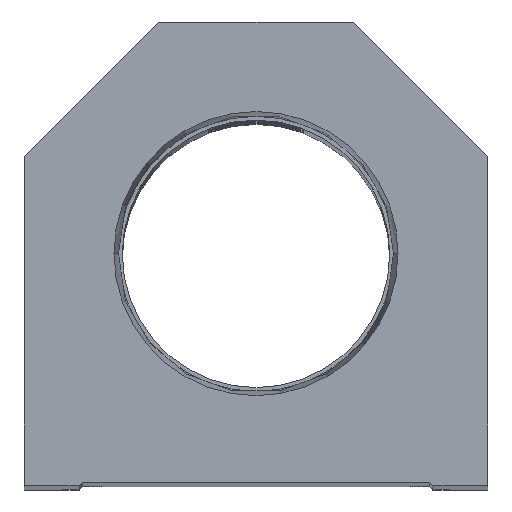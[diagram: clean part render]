
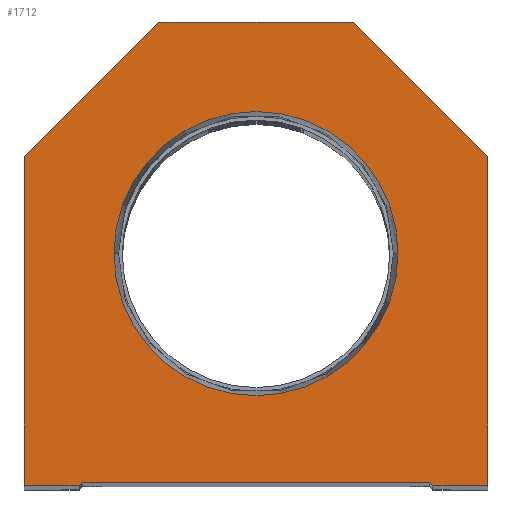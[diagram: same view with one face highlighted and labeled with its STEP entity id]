
A CAD part, top view. The second image highlights one B-rep face of the part: STEP entity #1712.
In plain terms, the highlighted planar face has unit normal (0, 0, 1).
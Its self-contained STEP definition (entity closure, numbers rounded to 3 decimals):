
#46 = CARTESIAN_POINT ( 'NONE',  ( 23.374, 38.1, 0. ) ) ;
#354 = AXIS2_PLACEMENT_3D ( 'NONE', #4495, #11588, #6454 ) ;
#473 = VECTOR ( 'NONE', #11195, 1000. ) ;
#550 = EDGE_CURVE ( 'NONE', #11220, #10486, #13526, .T. ) ;
#679 = LINE ( 'NONE', #988, #2090 ) ;
#988 = CARTESIAN_POINT ( 'NONE',  ( -14.55, 14.55, 0. ) ) ;
#1183 = DIRECTION ( 'NONE',  ( -0.707, -0.707, 0. ) ) ;
#1212 = VERTEX_POINT ( 'NONE', #6011 ) ;
#1712 = ADVANCED_FACE ( 'NONE', ( #4876, #6626 ), #16768, .T. ) ;
#1917 = VECTOR ( 'NONE', #1183, 1000. ) ;
#2090 = VECTOR ( 'NONE', #20762, 1000. ) ;
#2194 = LINE ( 'NONE', #3581, #10768 ) ;
#2288 = DIRECTION ( 'NONE',  ( 0.707, -0.707, 0. ) ) ;
#2640 = ORIENTED_EDGE ( 'NONE', *, *, #10659, .T. ) ;
#3257 = DIRECTION ( 'NONE',  ( 0., 0., 1. ) ) ;
#3581 = CARTESIAN_POINT ( 'NONE',  ( 28.6, 0., 0. ) ) ;
#4246 = EDGE_CURVE ( 'NONE', #6207, #13645, #13300, .T. ) ;
#4346 = EDGE_CURVE ( 'NONE', #17891, #12793, #15478, .T. ) ;
#4472 = EDGE_CURVE ( 'NONE', #12793, #1212, #9036, .T. ) ;
#4495 = CARTESIAN_POINT ( 'NONE',  ( 0., 38.1, 0. ) ) ;
#4626 = EDGE_CURVE ( 'NONE', #13645, #12607, #7472, .T. ) ;
#4876 = FACE_BOUND ( 'NONE', #16125, .T. ) ;
#5129 = DIRECTION ( 'NONE',  ( -1., 0., 0. ) ) ;
#5752 = CARTESIAN_POINT ( 'NONE',  ( 38.1, 0., 0. ) ) ;
#6011 = CARTESIAN_POINT ( 'NONE',  ( 16., 76.2, 0. ) ) ;
#6207 = VERTEX_POINT ( 'NONE', #7722 ) ;
#6375 = DIRECTION ( 'NONE',  ( 1., 0., 0. ) ) ;
#6454 = DIRECTION ( 'NONE',  ( 1., 0., 0. ) ) ;
#6464 = DIRECTION ( 'NONE',  ( 1., 0., 0. ) ) ;
#6466 = ORIENTED_EDGE ( 'NONE', *, *, #4346, .T. ) ;
#6626 = FACE_OUTER_BOUND ( 'NONE', #9666, .T. ) ;
#6820 = ORIENTED_EDGE ( 'NONE', *, *, #20540, .T. ) ;
#6884 = VECTOR ( 'NONE', #2288, 1000. ) ;
#7057 = CARTESIAN_POINT ( 'NONE',  ( 14.55, 14.55, 0. ) ) ;
#7195 = DIRECTION ( 'NONE',  ( 0., 1., 0. ) ) ;
#7472 = LINE ( 'NONE', #7057, #6884 ) ;
#7722 = CARTESIAN_POINT ( 'NONE',  ( -28.6, 0.5, 0. ) ) ;
#8598 = DIRECTION ( 'NONE',  ( 1., 0., 0. ) ) ;
#8798 = ORIENTED_EDGE ( 'NONE', *, *, #550, .F. ) ;
#9036 = LINE ( 'NONE', #14035, #16268 ) ;
#9534 = CARTESIAN_POINT ( 'NONE',  ( -29.1, 0., 0. ) ) ;
#9625 = DIRECTION ( 'NONE',  ( 0., 0., 1. ) ) ;
#9666 = EDGE_LOOP ( 'NONE', ( #16926, #6820, #20628, #17051, #19724, #6466, #14823, #11731, #11134, #2640 ) ) ;
#9673 = EDGE_CURVE ( 'NONE', #1212, #10363, #20059, .T. ) ;
#10363 = VERTEX_POINT ( 'NONE', #14049 ) ;
#10443 = CARTESIAN_POINT ( 'NONE',  ( 38.1, 54.1, 0. ) ) ;
#10486 = VERTEX_POINT ( 'NONE', #46 ) ;
#10523 = VECTOR ( 'NONE', #5129, 1000. ) ;
#10597 = AXIS2_PLACEMENT_3D ( 'NONE', #14813, #3257, #8598 ) ;
#10659 = EDGE_CURVE ( 'NONE', #16760, #15792, #13460, .T. ) ;
#10768 = VECTOR ( 'NONE', #13285, 1000. ) ;
#11134 = ORIENTED_EDGE ( 'NONE', *, *, #13018, .T. ) ;
#11195 = DIRECTION ( 'NONE',  ( 0., -1., 0. ) ) ;
#11220 = VERTEX_POINT ( 'NONE', #17905 ) ;
#11512 = LINE ( 'NONE', #18167, #21092 ) ;
#11588 = DIRECTION ( 'NONE',  ( 0., 0., 1. ) ) ;
#11731 = ORIENTED_EDGE ( 'NONE', *, *, #9673, .T. ) ;
#11758 = VECTOR ( 'NONE', #7195, 1000. ) ;
#12253 = CARTESIAN_POINT ( 'NONE',  ( -38.1, 54.1, 0. ) ) ;
#12607 = VERTEX_POINT ( 'NONE', #18199 ) ;
#12793 = VERTEX_POINT ( 'NONE', #10443 ) ;
#12966 = VERTEX_POINT ( 'NONE', #9534 ) ;
#13018 = EDGE_CURVE ( 'NONE', #10363, #16760, #20956, .T. ) ;
#13285 = DIRECTION ( 'NONE',  ( 1., 0., 0. ) ) ;
#13300 = LINE ( 'NONE', #19933, #20414 ) ;
#13460 = LINE ( 'NONE', #20095, #473 ) ;
#13526 = CIRCLE ( 'NONE', #354, 23.374 ) ;
#13645 = VERTEX_POINT ( 'NONE', #20915 ) ;
#14035 = CARTESIAN_POINT ( 'NONE',  ( 38.1, 54.1, 0. ) ) ;
#14049 = CARTESIAN_POINT ( 'NONE',  ( -16., 76.2, 0. ) ) ;
#14469 = DIRECTION ( 'NONE',  ( -0.707, 0.707, 0. ) ) ;
#14813 = CARTESIAN_POINT ( 'NONE',  ( 0., 0., 0. ) ) ;
#14823 = ORIENTED_EDGE ( 'NONE', *, *, #4472, .T. ) ;
#15108 = EDGE_CURVE ( 'NONE', #15792, #12966, #11512, .T. ) ;
#15478 = LINE ( 'NONE', #18857, #11758 ) ;
#15561 = AXIS2_PLACEMENT_3D ( 'NONE', #18913, #9625, #6464 ) ;
#15792 = VERTEX_POINT ( 'NONE', #17621 ) ;
#15863 = ORIENTED_EDGE ( 'NONE', *, *, #18627, .F. ) ;
#16125 = EDGE_LOOP ( 'NONE', ( #15863, #8798 ) ) ;
#16197 = CARTESIAN_POINT ( 'NONE',  ( -38.1, 54.1, 0. ) ) ;
#16268 = VECTOR ( 'NONE', #14469, 1000. ) ;
#16760 = VERTEX_POINT ( 'NONE', #12253 ) ;
#16768 = PLANE ( 'NONE',  #10597 ) ;
#16914 = CARTESIAN_POINT ( 'NONE',  ( 16., 76.2, 0. ) ) ;
#16926 = ORIENTED_EDGE ( 'NONE', *, *, #15108, .T. ) ;
#17051 = ORIENTED_EDGE ( 'NONE', *, *, #4626, .T. ) ;
#17621 = CARTESIAN_POINT ( 'NONE',  ( -38.1, 0., 0. ) ) ;
#17891 = VERTEX_POINT ( 'NONE', #5752 ) ;
#17905 = CARTESIAN_POINT ( 'NONE',  ( -23.374, 38.1, 0. ) ) ;
#18167 = CARTESIAN_POINT ( 'NONE',  ( -28.6, 0., 0. ) ) ;
#18199 = CARTESIAN_POINT ( 'NONE',  ( 29.1, 0., 0. ) ) ;
#18337 = DIRECTION ( 'NONE',  ( 1., 0., 0. ) ) ;
#18627 = EDGE_CURVE ( 'NONE', #10486, #11220, #21099, .T. ) ;
#18857 = CARTESIAN_POINT ( 'NONE',  ( 38.1, 0., 0. ) ) ;
#18913 = CARTESIAN_POINT ( 'NONE',  ( 0., 38.1, 0. ) ) ;
#19724 = ORIENTED_EDGE ( 'NONE', *, *, #21269, .T. ) ;
#19933 = CARTESIAN_POINT ( 'NONE',  ( -28.6, 0.5, 0. ) ) ;
#20059 = LINE ( 'NONE', #16914, #10523 ) ;
#20095 = CARTESIAN_POINT ( 'NONE',  ( -38.1, 0., 0. ) ) ;
#20414 = VECTOR ( 'NONE', #18337, 1000. ) ;
#20540 = EDGE_CURVE ( 'NONE', #12966, #6207, #679, .T. ) ;
#20628 = ORIENTED_EDGE ( 'NONE', *, *, #4246, .T. ) ;
#20762 = DIRECTION ( 'NONE',  ( 0.707, 0.707, 0. ) ) ;
#20915 = CARTESIAN_POINT ( 'NONE',  ( 28.6, 0.5, 0. ) ) ;
#20956 = LINE ( 'NONE', #16197, #1917 ) ;
#21092 = VECTOR ( 'NONE', #6375, 1000. ) ;
#21099 = CIRCLE ( 'NONE', #15561, 23.374 ) ;
#21269 = EDGE_CURVE ( 'NONE', #12607, #17891, #2194, .T. ) ;
